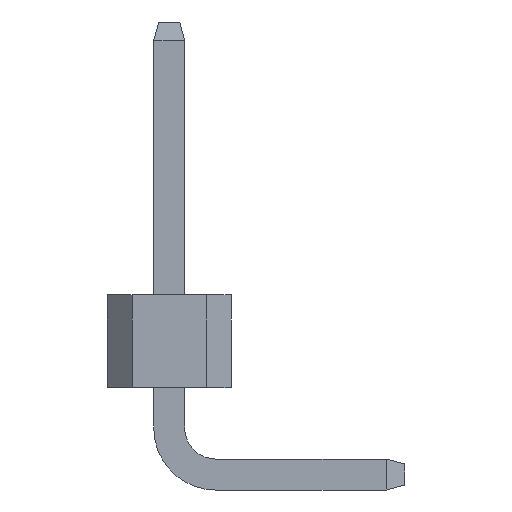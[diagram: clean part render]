
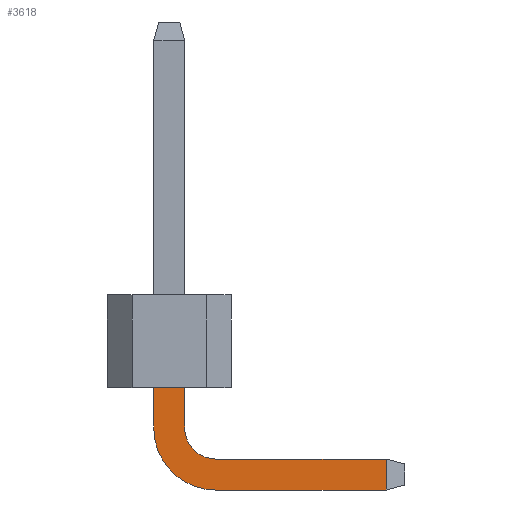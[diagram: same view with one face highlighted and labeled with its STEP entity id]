
A CAD part, left-side view. The second image highlights one B-rep face of the part: STEP entity #3618.
In plain terms, the highlighted planar face has unit normal (-1, 0, 0).
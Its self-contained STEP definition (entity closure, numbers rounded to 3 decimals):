
#17 = EDGE_LOOP ( 'NONE', ( #758, #757, #756, #755, #754, #753, #752, #751 ) ) ;
#63 = EDGE_CURVE ( 'NONE', #4980, #4984, #3713, .T. ) ;
#65 = EDGE_CURVE ( 'NONE', #4984, #4985, #3715, .T. ) ;
#69 = EDGE_CURVE ( 'NONE', #4985, #4993, #3725, .T. ) ;
#70 = EDGE_CURVE ( 'NONE', #4992, #4983, #3727, .T. ) ;
#73 = EDGE_CURVE ( 'NONE', #4983, #4977, #3733, .T. ) ;
#76 = EDGE_CURVE ( 'NONE', #4977, #4988, #3738, .T. ) ;
#80 = EDGE_CURVE ( 'NONE', #4980, #4988, #3745, .T. ) ;
#117 = AXIS2_PLACEMENT_3D ( 'NONE', #5250, #5251, #5252 ) ;
#119 = AXIS2_PLACEMENT_3D ( 'NONE', #5268, #5269, #5270 ) ;
#602 = AXIS2_PLACEMENT_3D ( 'NONE', #1583, #1582, #1581 ) ;
#751 = ORIENTED_EDGE ( 'NONE', *, *, #65, .F. ) ;
#752 = ORIENTED_EDGE ( 'NONE', *, *, #69, .F. ) ;
#753 = ORIENTED_EDGE ( 'NONE', *, *, #3287, .F. ) ;
#754 = ORIENTED_EDGE ( 'NONE', *, *, #70, .F. ) ;
#755 = ORIENTED_EDGE ( 'NONE', *, *, #73, .F. ) ;
#756 = ORIENTED_EDGE ( 'NONE', *, *, #76, .F. ) ;
#757 = ORIENTED_EDGE ( 'NONE', *, *, #80, .T. ) ;
#758 = ORIENTED_EDGE ( 'NONE', *, *, #63, .F. ) ;
#1204 = FACE_OUTER_BOUND ( 'NONE', #17, .T. ) ;
#1581 = DIRECTION ( 'NONE',  ( 0., 0., -1. ) ) ;
#1582 = DIRECTION ( 'NONE',  ( 1., 0., 0. ) ) ;
#1583 = CARTESIAN_POINT ( 'NONE',  ( -8.25, 0.25, 0.75 ) ) ;
#1635 = PLANE ( 'NONE',  #602 ) ;
#1697 = CARTESIAN_POINT ( 'NONE',  ( -8.25, 1.25, 1.4 ) ) ;
#1698 = CARTESIAN_POINT ( 'NONE',  ( -8.25, 0.75, 1.4 ) ) ;
#1702 = CARTESIAN_POINT ( 'NONE',  ( -8.25, -2.5, 0.25 ) ) ;
#1704 = CARTESIAN_POINT ( 'NONE',  ( -8.25, 0.25, -0.25 ) ) ;
#1706 = CARTESIAN_POINT ( 'NONE',  ( -8.25, 0.75, 0.75 ) ) ;
#1710 = CARTESIAN_POINT ( 'NONE',  ( -8.25, -2.5, -0.25 ) ) ;
#1714 = CARTESIAN_POINT ( 'NONE',  ( -8.25, 1.25, 0.75 ) ) ;
#1715 = CARTESIAN_POINT ( 'NONE',  ( -8.25, 0.25, 0.25 ) ) ;
#3287 = EDGE_CURVE ( 'NONE', #4993, #4992, #3847, .T. ) ;
#3618 = ADVANCED_FACE ( 'NONE', ( #1204 ), #1635, .F. ) ;
#3713 = LINE ( 'NONE', #5234, #3718 ) ;
#3715 = CIRCLE ( 'NONE', #117, 1. ) ;
#3718 = VECTOR ( 'NONE', #5245, 1000. ) ;
#3725 = LINE ( 'NONE', #5259, #3728 ) ;
#3727 = LINE ( 'NONE', #5261, #3730 ) ;
#3728 = VECTOR ( 'NONE', #5260, 1000. ) ;
#3730 = VECTOR ( 'NONE', #5263, 1000. ) ;
#3733 = CIRCLE ( 'NONE', #119, 0.5 ) ;
#3738 = LINE ( 'NONE', #5271, #3740 ) ;
#3740 = VECTOR ( 'NONE', #5267, 1000. ) ;
#3745 = LINE ( 'NONE', #5283, #3748 ) ;
#3748 = VECTOR ( 'NONE', #5285, 1000. ) ;
#3847 = LINE ( 'NONE', #5429, #3858 ) ;
#3858 = VECTOR ( 'NONE', #5441, 1000. ) ;
#4977 = VERTEX_POINT ( 'NONE', #1715 ) ;
#4980 = VERTEX_POINT ( 'NONE', #1710 ) ;
#4983 = VERTEX_POINT ( 'NONE', #1706 ) ;
#4984 = VERTEX_POINT ( 'NONE', #1704 ) ;
#4985 = VERTEX_POINT ( 'NONE', #1714 ) ;
#4988 = VERTEX_POINT ( 'NONE', #1702 ) ;
#4992 = VERTEX_POINT ( 'NONE', #1698 ) ;
#4993 = VERTEX_POINT ( 'NONE', #1697 ) ;
#5234 = CARTESIAN_POINT ( 'NONE',  ( -8.25, -2.8, -0.25 ) ) ;
#5245 = DIRECTION ( 'NONE',  ( 0., 1., 0. ) ) ;
#5250 = CARTESIAN_POINT ( 'NONE',  ( -8.25, 0.25, 0.75 ) ) ;
#5251 = DIRECTION ( 'NONE',  ( 1., 0., 0. ) ) ;
#5252 = DIRECTION ( 'NONE',  ( 0., 0., -1. ) ) ;
#5259 = CARTESIAN_POINT ( 'NONE',  ( -8.25, 1.25, 0.75 ) ) ;
#5260 = DIRECTION ( 'NONE',  ( 0., 0., 1. ) ) ;
#5261 = CARTESIAN_POINT ( 'NONE',  ( -8.25, 0.75, 0.75 ) ) ;
#5263 = DIRECTION ( 'NONE',  ( 0., 0., -1. ) ) ;
#5267 = DIRECTION ( 'NONE',  ( 0., -1., 0. ) ) ;
#5268 = CARTESIAN_POINT ( 'NONE',  ( -8.25, 0.25, 0.75 ) ) ;
#5269 = DIRECTION ( 'NONE',  ( -1., 0., 0. ) ) ;
#5270 = DIRECTION ( 'NONE',  ( 0., 0., -1. ) ) ;
#5271 = CARTESIAN_POINT ( 'NONE',  ( -8.25, -2.8, 0.25 ) ) ;
#5283 = CARTESIAN_POINT ( 'NONE',  ( -8.25, -2.5, 0.75 ) ) ;
#5285 = DIRECTION ( 'NONE',  ( 0., 0., 1. ) ) ;
#5429 = CARTESIAN_POINT ( 'NONE',  ( -8.25, 2.6, 1.4 ) ) ;
#5441 = DIRECTION ( 'NONE',  ( 0., -1., 0. ) ) ;
